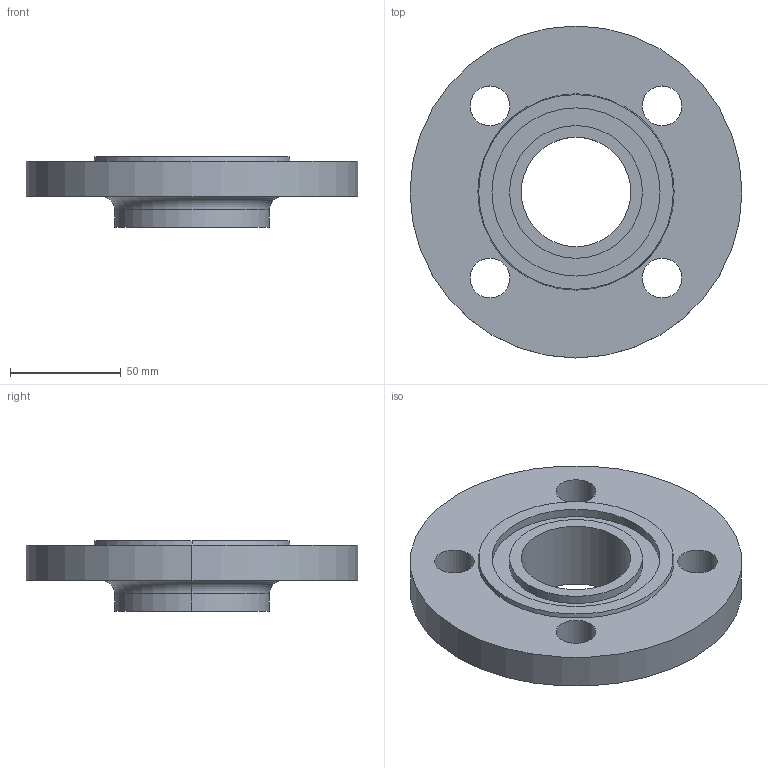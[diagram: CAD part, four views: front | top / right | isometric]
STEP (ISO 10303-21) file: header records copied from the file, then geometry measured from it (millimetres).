
FILE_DESCRIPTION (( 'STEP AP214' ), '1' );
FILE_NAME ('PN40 DN40 Type 12 - Type D Face.STEP', '2018-12-30T01:41:23', ( '' ), ( '' ), 'SwSTEP 2.0', 'SolidWorks 2019', '' );
FILE_SCHEMA (( 'AUTOMOTIVE_DESIGN' ));
Length unit declared in the file: millimetre
Products named in the file (1): PN40 DN40 Type 12 - Type D Face
Bounding box: 150 x 150 x 32 mm (x, y, z)
Volume: 265944.1 mm3; surface area: 50296.8 mm2
Topology: 1 solids, 1 shells, 28 faces, 64 edges, 42 vertices
Faces by surface type: cylinder 18, plane 6, torus 2, cone 2
Entity records: 870 total; most frequent: DIRECTION 166, CARTESIAN_POINT 135, ORIENTED_EDGE 128, AXIS2_PLACEMENT_3D 73, EDGE_CURVE 64, CIRCLE 44, VERTEX_POINT 42, EDGE_LOOP 42
